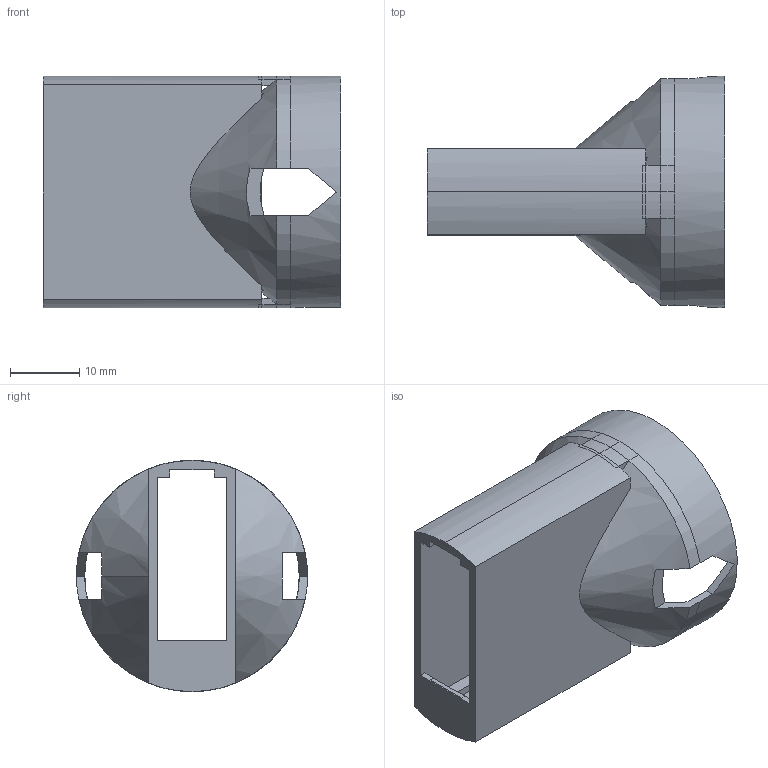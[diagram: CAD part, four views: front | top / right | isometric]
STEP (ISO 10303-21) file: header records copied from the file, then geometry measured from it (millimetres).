
FILE_DESCRIPTION(('SkyG Speed 90B - revision C6B-11 - 2026-10-11','N0O-duct-insert'),'2;1');
FILE_NAME('N0O-duct-insert_C6B-11','2026-10-11T13:31:15',('Author'),( 'Open CASCADE'),'Open CASCADE STEP processor 7.9','Open CASCADE 7.9' ,'Unknown');
FILE_SCHEMA(('AUTOMOTIVE_DESIGN { 1 0 10303 214 1 1 1 1 }'));
Length unit declared in the file: millimetre
Products named in the file (1): N0O-duct-insert C6B-11
Bounding box: 42.86 x 33.3 x 33.3 mm (x, y, z)
Volume: 5135.9 mm3; surface area: 8637.5 mm2
Topology: 1 solids, 1 shells, 91 faces, 295 edges, 185 vertices
Faces by surface type: plane 59, cylinder 26, cone 6
Full cylindrical faces by diameter (mm): 33.3 x1
Entity records: 7200 total; most frequent: CARTESIAN_POINT 1897, DIRECTION 887, ORIENTED_EDGE 590, PCURVE 590, DEFINITIONAL_REPRESENTATION 590, LINE 408, VECTOR 408, EDGE_CURVE 295
